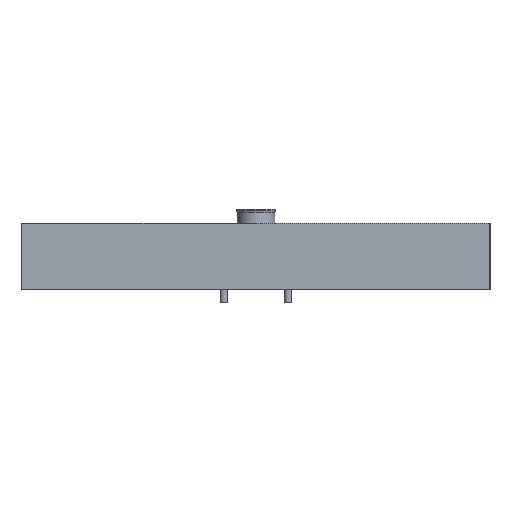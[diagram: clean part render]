
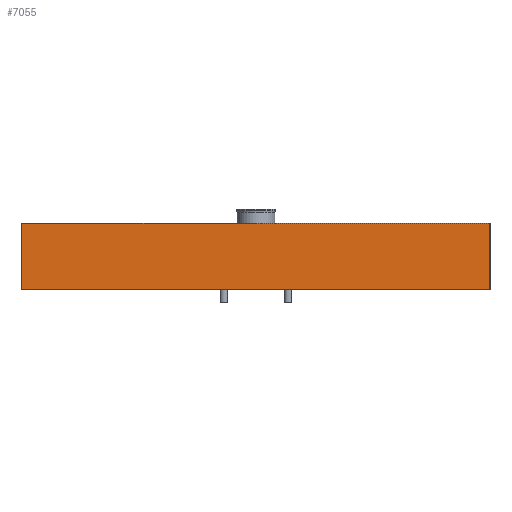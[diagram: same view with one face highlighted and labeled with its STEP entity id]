
A CAD part, left-side view. The second image highlights one B-rep face of the part: STEP entity #7055.
In plain terms, the highlighted planar face has unit normal (-1, 0, 0).
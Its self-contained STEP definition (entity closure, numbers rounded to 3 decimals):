
#7055=ADVANCED_FACE('',(#14556),#14557,.F.);
#14556=FACE_OUTER_BOUND('',#28751,.T.);
#14557=PLANE('',#28752);
#28751=EDGE_LOOP('',(#48347,#48348,#48349,#48350));
#28752=AXIS2_PLACEMENT_3D('',#48351,#48352,#48353);
#48347=ORIENTED_EDGE('',*,*,#52732,.T.);
#48348=ORIENTED_EDGE('',*,*,#54069,.F.);
#48349=ORIENTED_EDGE('',*,*,#58803,.F.);
#48350=ORIENTED_EDGE('',*,*,#58582,.T.);
#48351=CARTESIAN_POINT('',(-348.0,248.0,70.0));
#48352=DIRECTION('',(1.0,0.0,0.0));
#48353=DIRECTION('',(0.0,1.0,0.0));
#52732=EDGE_CURVE('',#61944,#61945,#61946,.T.);
#54069=EDGE_CURVE('',#64137,#61945,#64139,.T.);
#58582=EDGE_CURVE('',#70250,#61944,#70251,.T.);
#58803=EDGE_CURVE('',#70250,#64137,#70488,.T.);
#61944=VERTEX_POINT('',#76401);
#61945=VERTEX_POINT('',#76402);
#61946=LINE('',#76403,#76404);
#64137=VERTEX_POINT('',#80217);
#64139=LINE('',#80220,#80221);
#70250=VERTEX_POINT('',#92385);
#70251=LINE('',#92386,#92387);
#70488=LINE('',#92779,#92780);
#76401=CARTESIAN_POINT('',(-348.0,248.0,0.0));
#76402=CARTESIAN_POINT('',(-348.0,-248.0,0.0));
#76403=CARTESIAN_POINT('',(-348.0,248.0,0.0));
#76404=VECTOR('',#95456,1.0);
#80217=CARTESIAN_POINT('',(-348.0,-248.0,70.0));
#80220=CARTESIAN_POINT('',(-348.0,-248.0,70.0));
#80221=VECTOR('',#97302,1.0);
#92385=CARTESIAN_POINT('',(-348.0,248.0,70.0));
#92386=CARTESIAN_POINT('',(-348.0,248.0,70.0));
#92387=VECTOR('',#102431,1.0);
#92779=CARTESIAN_POINT('',(-348.0,248.0,70.0));
#92780=VECTOR('',#102592,1.0);
#95456=DIRECTION('',(0.0,-1.0,0.0));
#97302=DIRECTION('',(0.0,0.0,-1.0));
#102431=DIRECTION('',(0.0,0.0,-1.0));
#102592=DIRECTION('',(0.0,-1.0,0.0));
